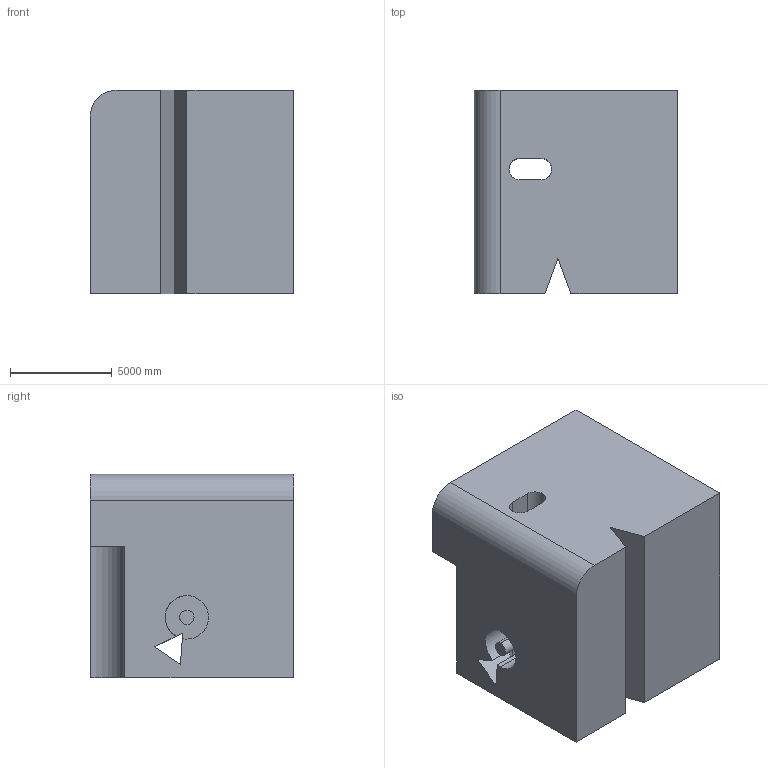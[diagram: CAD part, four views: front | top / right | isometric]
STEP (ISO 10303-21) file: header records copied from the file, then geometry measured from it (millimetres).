
FILE_DESCRIPTION (( 'STEP AP203' ), '1' );
FILE_NAME ('1703.STEP', '2022-08-19T11:52:50', ( 'user' ), ( '' ), 'SwSTEP 2.0', 'SolidWorks 2021', '' );
FILE_SCHEMA (( 'CONFIG_CONTROL_DESIGN' ));
Length unit declared in the file: centimetre
Products named in the file (1): 1703
Bounding box: 10000 x 10000 x 10000 mm (x, y, z)
Volume: 891322973573 mm3; surface area: 795363293.4 mm2
Topology: 1 solids, 1 shells, 44 faces, 117 edges, 78 vertices
Faces by surface type: plane 23, cylinder 21
Entity records: 1942 total; most frequent: CARTESIAN_POINT 752, ORIENTED_EDGE 234, DIRECTION 225, EDGE_CURVE 117, VERTEX_POINT 78, VECTOR 75, LINE 75, AXIS2_PLACEMENT_3D 75
